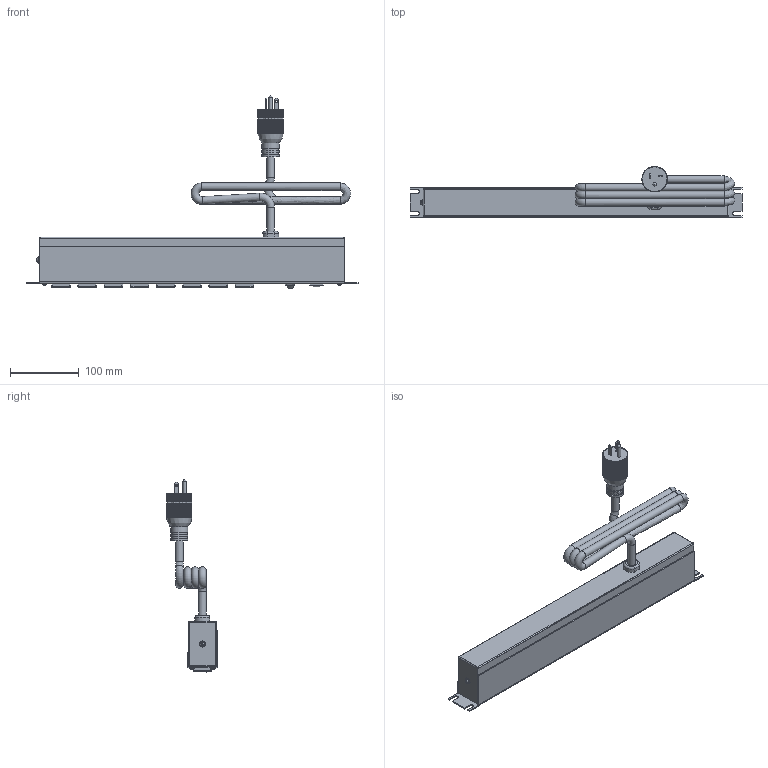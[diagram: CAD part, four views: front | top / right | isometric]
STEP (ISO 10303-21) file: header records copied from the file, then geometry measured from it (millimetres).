
FILE_DESCRIPTION((''),'2;1');
FILE_NAME('E:\Dutton\Manufacturing\drawings\Updated 2009\POWER BARS\1589 RF series\STEP''s\1589H8F1BKRF.stp','2010-01-12T09:59:00',('tfoster'),(''),'Autodesk Inventor 2010','Autodesk Inventor 2010','');
FILE_SCHEMA(('AUTOMOTIVE_DESIGN { 1 0 10303 214 1 1 1 1 }'));
Products named in the file (12): 1589H8F1BKRF; 1589H8 FR front plate; 1589H6 & H8 RF Back Plate; #6x0.5 type A; Reset Switch; Power Switch Assembly; Power Switch; Power Switch pt; toothwasher; round head 1-way 8-32 x 0.5 screw; 20 amp Cored; 20 Amp Receptacle
Assembly tree (21 placements, depth 3):
  1589H8F1BKRF
    1589H8 FR front plate
    1589H6 & H8 RF Back Plate
    #6x0.5 type A  x4
    Reset Switch
    Power Switch Assembly
      Power Switch
      Power Switch pt
    toothwasher
    round head 1-way 8-32 x 0.5 screw
    20 amp Cored
    20 Amp Receptacle  x8
Bounding box: 482.6 x 73.73 x 279.63 mm (x, y, z)
Volume: 455598.5 mm3; surface area: 323941.4 mm2
Topology: 20 solids, 20 shells, 1284 faces, 3682 edges, 2434 vertices
Faces by surface type: plane 875, cylinder 223, bspline 99, sphere 38, cone 33, torus 16
Full cylindrical faces by diameter (mm): 1 x2, 1.803 x3, 1.905 x2, 2.997 x4, 3.2 x2, 4.3 x1, 4.801 x1, 4.826 x1, 5.563 x4, 7.849 x1, 11 x4, 12.5 x1, 22.606 x2, 25.146 x3
Entity records: 28443 total; most frequent: CARTESIAN_POINT 8528, ORIENTED_EDGE 4266, DIRECTION 3758, EDGE_CURVE 2133, VERTEX_POINT 1450, VECTOR 1390, LINE 1390, AXIS2_PLACEMENT_3D 1184
